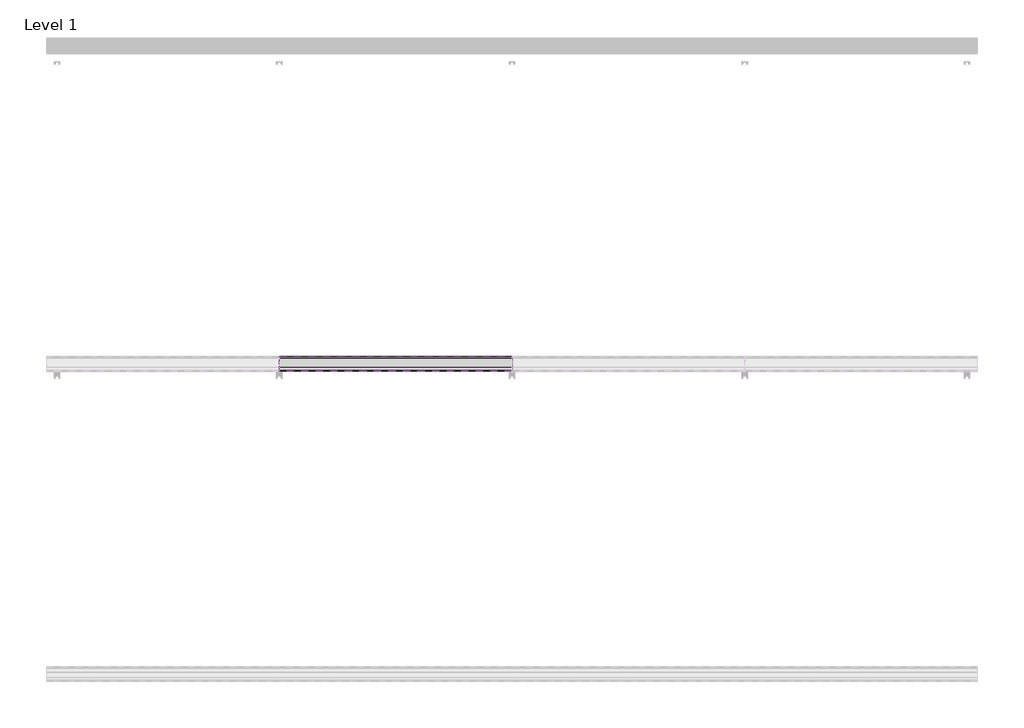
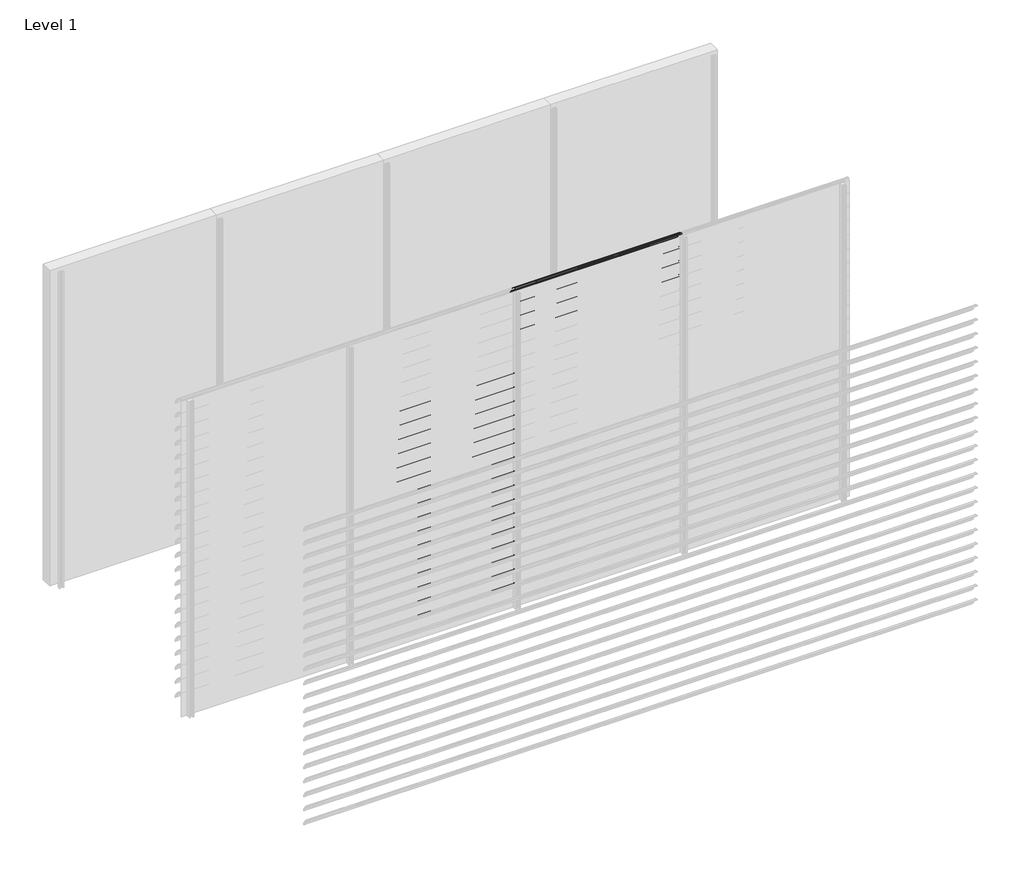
# One storey, part 44 of 57: 20 proxies.
"""IFC4 building model written with IfcOpenShell, lengths in millimetres."""

from ifc_helpers import new_model, si_unit, point, frame, frame_2d, origin, place, context, project, spatial, polyline, circle_curve, trimmed, segment, composite_curve, outline, extrude, element, save

model = new_model("IFC4")

# Units and contexts
model_context = context("Model", 3, world=origin())
ifc_project = project(units=[si_unit("LENGTHUNIT", "METRE", prefix="MILLI")], contexts=[model_context])

# Site, building, storey
site = spatial("IfcSite", under=ifc_project)
building = spatial("IfcBuilding", under=site)
storey = spatial("IfcBuildingStorey", under=building, Name="Level 1", Elevation=0.0)

# Proxies
placement = place(None, origin())
element("IfcBuildingElementProxy", 1, Name="Wall Sweeps", at=placement, inside=storey, context=model_context, shape_type="SweptSolid", body=[
    extrude(outline(composite_curve([segment(trimmed(circle_curve(frame_2d((-11993.7822526, 2218.4913792)), 4.2177474), [point((-11989.6985606, 2219.5462976))], [point((-11993.7822526, 2222.7091266))], False, "CARTESIAN"), True, "CONTINUOUS"), segment(trimmed(circle_curve(frame_2d((-12018.7150834, 2120.2536312)), 105.4456002), [point((-11993.7822526, 2222.7091266))], [point((-11971.7914298, 2214.6832099))], False, "CARTESIAN"), True, "CONTINUOUS"), segment(trimmed(circle_curve(frame_2d((-12061.7199745, 2066.0352476)), 173.7335887), [point((-11971.7914298, 2214.6832099))], [point((-11913.0720121, 2155.9637922))], False, "CARTESIAN"), True, "CONTINUOUS"), segment(trimmed(circle_curve(frame_2d((-12004.9297178, 2104.1860314)), 105.4456002), [point((-11913.0720121, 2155.9637922))], [point((-11903.6249616, 2133.4455765))], False, "CARTESIAN"), True, "CONTINUOUS"), segment(trimmed(circle_curve(frame_2d((-11907.809737, 2132.3307305)), 4.3307305), [point((-11903.6249616, 2133.4455765))], [point((-11909.0769196, 2128.189538))], False, "CARTESIAN"), True, "CONTINUOUS"), segment(polyline([(-11909.0769196, 2128.189538), (-11934.7401984, 2152.9722783)]), True, "CONTINUOUS"), segment(trimmed(circle_curve(frame_2d((-11931.3879574, 2155.2977626)), 4.079877), [point((-11934.7401984, 2152.9722783))], [point((-11930.7310597, 2159.3244091))], False, "CARTESIAN"), True, "CONTINUOUS"), segment(trimmed(circle_curve(frame_2d((-12014.6665585, 2137.2544323)), 86.7885467), [point((-11930.7310597, 2159.3244091))], [point((-11942.3028351, 2185.1683485))], True, "CARTESIAN"), True, "CONTINUOUS"), segment(polyline([(-11942.3028351, 2185.1683485), (-11940.7230099, 2187.9046861)]), True, "CONTINUOUS"), segment(trimmed(circle_curve(frame_2d((-12061.7199745, 2066.0352476)), 171.7335887), [point((-11940.7230099, 2187.9046861))], [point((-11972.7555872, 2212.9289618))], True, "CARTESIAN"), True, "CONTINUOUS"), segment(trimmed(circle_curve(frame_2d((-12018.7150834, 2120.2536312)), 103.4456002), [point((-11972.7555872, 2212.9289618))], [point((-11989.6985606, 2219.5462976))], True, "CARTESIAN"), True, "CONTINUOUS")], self_intersect=False)), frame((1500.0, 0.0, 0.0), z_axis=(1.0, 0.0, 0.0), x_axis=(0.0, 1.0, 0.0)), (0.0, 0.0, 1.0), 1500.0),
])
element("IfcBuildingElementProxy", 2, Name="Wall Sweeps", at=placement, inside=storey, context=model_context, shape_type="SweptSolid", body=[
    extrude(outline(composite_curve([segment(trimmed(circle_curve(frame_2d((-11993.7822526, 2085.4913792)), 4.2177474), [point((-11989.6985606, 2086.5462976))], [point((-11993.7822526, 2089.7091266))], False, "CARTESIAN"), True, "CONTINUOUS"), segment(trimmed(circle_curve(frame_2d((-12018.7150834, 1987.2536312)), 105.4456002), [point((-11993.7822526, 2089.7091266))], [point((-11971.7914298, 2081.6832099))], False, "CARTESIAN"), True, "CONTINUOUS"), segment(trimmed(circle_curve(frame_2d((-12061.7199745, 1933.0352476)), 173.7335887), [point((-11971.7914298, 2081.6832099))], [point((-11913.0720121, 2022.9637922))], False, "CARTESIAN"), True, "CONTINUOUS"), segment(trimmed(circle_curve(frame_2d((-12004.9297178, 1971.1860314)), 105.4456002), [point((-11913.0720121, 2022.9637922))], [point((-11903.6249616, 2000.4455765))], False, "CARTESIAN"), True, "CONTINUOUS"), segment(trimmed(circle_curve(frame_2d((-11907.809737, 1999.3307305)), 4.3307305), [point((-11903.6249616, 2000.4455765))], [point((-11909.0769196, 1995.189538))], False, "CARTESIAN"), True, "CONTINUOUS"), segment(polyline([(-11909.0769196, 1995.189538), (-11934.7401984, 2019.9722783)]), True, "CONTINUOUS"), segment(trimmed(circle_curve(frame_2d((-11931.3879574, 2022.2977626)), 4.079877), [point((-11934.7401984, 2019.9722783))], [point((-11930.7310597, 2026.3244091))], False, "CARTESIAN"), True, "CONTINUOUS"), segment(trimmed(circle_curve(frame_2d((-12014.6665585, 2004.2544323)), 86.7885467), [point((-11930.7310597, 2026.3244091))], [point((-11942.3028351, 2052.1683485))], True, "CARTESIAN"), True, "CONTINUOUS"), segment(polyline([(-11942.3028351, 2052.1683485), (-11940.7230099, 2054.9046861)]), True, "CONTINUOUS"), segment(trimmed(circle_curve(frame_2d((-12061.7199745, 1933.0352476)), 171.7335887), [point((-11940.7230099, 2054.9046861))], [point((-11972.7555872, 2079.9289618))], True, "CARTESIAN"), True, "CONTINUOUS"), segment(trimmed(circle_curve(frame_2d((-12018.7150834, 1987.2536312)), 103.4456002), [point((-11972.7555872, 2079.9289618))], [point((-11989.6985606, 2086.5462976))], True, "CARTESIAN"), True, "CONTINUOUS")], self_intersect=False)), frame((1500.0, 0.0, 0.0), z_axis=(1.0, 0.0, 0.0), x_axis=(0.0, 1.0, 0.0)), (0.0, 0.0, 1.0), 1500.0),
])
element("IfcBuildingElementProxy", 3, Name="Wall Sweeps", at=placement, inside=storey, context=model_context, shape_type="SweptSolid", body=[
    extrude(outline(composite_curve([segment(trimmed(circle_curve(frame_2d((-11993.7822526, 1952.4913792)), 4.2177474), [point((-11989.6985606, 1953.5462976))], [point((-11993.7822526, 1956.7091266))], False, "CARTESIAN"), True, "CONTINUOUS"), segment(trimmed(circle_curve(frame_2d((-12018.7150834, 1854.2536312)), 105.4456002), [point((-11993.7822526, 1956.7091266))], [point((-11971.7914298, 1948.6832099))], False, "CARTESIAN"), True, "CONTINUOUS"), segment(trimmed(circle_curve(frame_2d((-12061.7199745, 1800.0352476)), 173.7335887), [point((-11971.7914298, 1948.6832099))], [point((-11913.0720121, 1889.9637922))], False, "CARTESIAN"), True, "CONTINUOUS"), segment(trimmed(circle_curve(frame_2d((-12004.9297178, 1838.1860314)), 105.4456002), [point((-11913.0720121, 1889.9637922))], [point((-11903.6249616, 1867.4455765))], False, "CARTESIAN"), True, "CONTINUOUS"), segment(trimmed(circle_curve(frame_2d((-11907.809737, 1866.3307305)), 4.3307305), [point((-11903.6249616, 1867.4455765))], [point((-11909.0769196, 1862.189538))], False, "CARTESIAN"), True, "CONTINUOUS"), segment(polyline([(-11909.0769196, 1862.189538), (-11934.7401984, 1886.9722783)]), True, "CONTINUOUS"), segment(trimmed(circle_curve(frame_2d((-11931.3879574, 1889.2977626)), 4.079877), [point((-11934.7401984, 1886.9722783))], [point((-11930.7310597, 1893.3244091))], False, "CARTESIAN"), True, "CONTINUOUS"), segment(trimmed(circle_curve(frame_2d((-12014.6665585, 1871.2544323)), 86.7885467), [point((-11930.7310597, 1893.3244091))], [point((-11942.3028351, 1919.1683485))], True, "CARTESIAN"), True, "CONTINUOUS"), segment(polyline([(-11942.3028351, 1919.1683485), (-11940.7230099, 1921.9046861)]), True, "CONTINUOUS"), segment(trimmed(circle_curve(frame_2d((-12061.7199745, 1800.0352476)), 171.7335887), [point((-11940.7230099, 1921.9046861))], [point((-11972.7555872, 1946.9289618))], True, "CARTESIAN"), True, "CONTINUOUS"), segment(trimmed(circle_curve(frame_2d((-12018.7150834, 1854.2536312)), 103.4456002), [point((-11972.7555872, 1946.9289618))], [point((-11989.6985606, 1953.5462976))], True, "CARTESIAN"), True, "CONTINUOUS")], self_intersect=False)), frame((1500.0, 0.0, 0.0), z_axis=(1.0, 0.0, 0.0), x_axis=(0.0, 1.0, 0.0)), (0.0, 0.0, 1.0), 1500.0),
])
element("IfcBuildingElementProxy", 4, Name="Wall Sweeps", at=placement, inside=storey, context=model_context, shape_type="SweptSolid", body=[
    extrude(outline(composite_curve([segment(trimmed(circle_curve(frame_2d((-11993.7822526, 1819.4913792)), 4.2177474), [point((-11989.6985606, 1820.5462976))], [point((-11993.7822526, 1823.7091266))], False, "CARTESIAN"), True, "CONTINUOUS"), segment(trimmed(circle_curve(frame_2d((-12018.7150834, 1721.2536312)), 105.4456002), [point((-11993.7822526, 1823.7091266))], [point((-11971.7914298, 1815.6832099))], False, "CARTESIAN"), True, "CONTINUOUS"), segment(trimmed(circle_curve(frame_2d((-12061.7199745, 1667.0352476)), 173.7335887), [point((-11971.7914298, 1815.6832099))], [point((-11913.0720121, 1756.9637922))], False, "CARTESIAN"), True, "CONTINUOUS"), segment(trimmed(circle_curve(frame_2d((-12004.9297178, 1705.1860314)), 105.4456002), [point((-11913.0720121, 1756.9637922))], [point((-11903.6249616, 1734.4455765))], False, "CARTESIAN"), True, "CONTINUOUS"), segment(trimmed(circle_curve(frame_2d((-11907.809737, 1733.3307305)), 4.3307305), [point((-11903.6249616, 1734.4455765))], [point((-11909.0769196, 1729.189538))], False, "CARTESIAN"), True, "CONTINUOUS"), segment(polyline([(-11909.0769196, 1729.189538), (-11934.7401984, 1753.9722783)]), True, "CONTINUOUS"), segment(trimmed(circle_curve(frame_2d((-11931.3879574, 1756.2977626)), 4.079877), [point((-11934.7401984, 1753.9722783))], [point((-11930.7310597, 1760.3244091))], False, "CARTESIAN"), True, "CONTINUOUS"), segment(trimmed(circle_curve(frame_2d((-12014.6665585, 1738.2544323)), 86.7885467), [point((-11930.7310597, 1760.3244091))], [point((-11942.3028351, 1786.1683485))], True, "CARTESIAN"), True, "CONTINUOUS"), segment(polyline([(-11942.3028351, 1786.1683485), (-11940.7230099, 1788.9046861)]), True, "CONTINUOUS"), segment(trimmed(circle_curve(frame_2d((-12061.7199745, 1667.0352476)), 171.7335887), [point((-11940.7230099, 1788.9046861))], [point((-11972.7555872, 1813.9289618))], True, "CARTESIAN"), True, "CONTINUOUS"), segment(trimmed(circle_curve(frame_2d((-12018.7150834, 1721.2536312)), 103.4456002), [point((-11972.7555872, 1813.9289618))], [point((-11989.6985606, 1820.5462976))], True, "CARTESIAN"), True, "CONTINUOUS")], self_intersect=False)), frame((1500.0, 0.0, 0.0), z_axis=(1.0, 0.0, 0.0), x_axis=(0.0, 1.0, 0.0)), (0.0, 0.0, 1.0), 1500.0),
])
element("IfcBuildingElementProxy", 5, Name="Wall Sweeps", at=placement, inside=storey, context=model_context, shape_type="SweptSolid", body=[
    extrude(outline(composite_curve([segment(trimmed(circle_curve(frame_2d((-11993.7822526, 1686.4913792)), 4.2177474), [point((-11989.6985606, 1687.5462976))], [point((-11993.7822526, 1690.7091266))], False, "CARTESIAN"), True, "CONTINUOUS"), segment(trimmed(circle_curve(frame_2d((-12018.7150834, 1588.2536312)), 105.4456002), [point((-11993.7822526, 1690.7091266))], [point((-11971.7914298, 1682.6832099))], False, "CARTESIAN"), True, "CONTINUOUS"), segment(trimmed(circle_curve(frame_2d((-12061.7199745, 1534.0352476)), 173.7335887), [point((-11971.7914298, 1682.6832099))], [point((-11913.0720121, 1623.9637922))], False, "CARTESIAN"), True, "CONTINUOUS"), segment(trimmed(circle_curve(frame_2d((-12004.9297178, 1572.1860314)), 105.4456002), [point((-11913.0720121, 1623.9637922))], [point((-11903.6249616, 1601.4455765))], False, "CARTESIAN"), True, "CONTINUOUS"), segment(trimmed(circle_curve(frame_2d((-11907.809737, 1600.3307305)), 4.3307305), [point((-11903.6249616, 1601.4455765))], [point((-11909.0769196, 1596.189538))], False, "CARTESIAN"), True, "CONTINUOUS"), segment(polyline([(-11909.0769196, 1596.189538), (-11934.7401984, 1620.9722783)]), True, "CONTINUOUS"), segment(trimmed(circle_curve(frame_2d((-11931.3879574, 1623.2977626)), 4.079877), [point((-11934.7401984, 1620.9722783))], [point((-11930.7310597, 1627.3244091))], False, "CARTESIAN"), True, "CONTINUOUS"), segment(trimmed(circle_curve(frame_2d((-12014.6665585, 1605.2544323)), 86.7885467), [point((-11930.7310597, 1627.3244091))], [point((-11942.3028351, 1653.1683485))], True, "CARTESIAN"), True, "CONTINUOUS"), segment(polyline([(-11942.3028351, 1653.1683485), (-11940.7230099, 1655.9046861)]), True, "CONTINUOUS"), segment(trimmed(circle_curve(frame_2d((-12061.7199745, 1534.0352476)), 171.7335887), [point((-11940.7230099, 1655.9046861))], [point((-11972.7555872, 1680.9289618))], True, "CARTESIAN"), True, "CONTINUOUS"), segment(trimmed(circle_curve(frame_2d((-12018.7150834, 1588.2536312)), 103.4456002), [point((-11972.7555872, 1680.9289618))], [point((-11989.6985606, 1687.5462976))], True, "CARTESIAN"), True, "CONTINUOUS")], self_intersect=False)), frame((1500.0, 0.0, 0.0), z_axis=(1.0, 0.0, 0.0), x_axis=(0.0, 1.0, 0.0)), (0.0, 0.0, 1.0), 1500.0),
])
element("IfcBuildingElementProxy", 6, Name="Wall Sweeps", at=placement, inside=storey, context=model_context, shape_type="SweptSolid", body=[
    extrude(outline(composite_curve([segment(trimmed(circle_curve(frame_2d((-11993.7822526, 1553.4913792)), 4.2177474), [point((-11989.6985606, 1554.5462976))], [point((-11993.7822526, 1557.7091266))], False, "CARTESIAN"), True, "CONTINUOUS"), segment(trimmed(circle_curve(frame_2d((-12018.7150834, 1455.2536312)), 105.4456002), [point((-11993.7822526, 1557.7091266))], [point((-11971.7914298, 1549.6832099))], False, "CARTESIAN"), True, "CONTINUOUS"), segment(trimmed(circle_curve(frame_2d((-12061.7199745, 1401.0352476)), 173.7335887), [point((-11971.7914298, 1549.6832099))], [point((-11913.0720121, 1490.9637922))], False, "CARTESIAN"), True, "CONTINUOUS"), segment(trimmed(circle_curve(frame_2d((-12004.9297178, 1439.1860314)), 105.4456002), [point((-11913.0720121, 1490.9637922))], [point((-11903.6249616, 1468.4455765))], False, "CARTESIAN"), True, "CONTINUOUS"), segment(trimmed(circle_curve(frame_2d((-11907.809737, 1467.3307305)), 4.3307305), [point((-11903.6249616, 1468.4455765))], [point((-11909.0769196, 1463.189538))], False, "CARTESIAN"), True, "CONTINUOUS"), segment(polyline([(-11909.0769196, 1463.189538), (-11934.7401984, 1487.9722783)]), True, "CONTINUOUS"), segment(trimmed(circle_curve(frame_2d((-11931.3879574, 1490.2977626)), 4.079877), [point((-11934.7401984, 1487.9722783))], [point((-11930.7310597, 1494.3244091))], False, "CARTESIAN"), True, "CONTINUOUS"), segment(trimmed(circle_curve(frame_2d((-12014.6665585, 1472.2544323)), 86.7885467), [point((-11930.7310597, 1494.3244091))], [point((-11942.3028351, 1520.1683485))], True, "CARTESIAN"), True, "CONTINUOUS"), segment(polyline([(-11942.3028351, 1520.1683485), (-11940.7230099, 1522.9046861)]), True, "CONTINUOUS"), segment(trimmed(circle_curve(frame_2d((-12061.7199745, 1401.0352476)), 171.7335887), [point((-11940.7230099, 1522.9046861))], [point((-11972.7555872, 1547.9289618))], True, "CARTESIAN"), True, "CONTINUOUS"), segment(trimmed(circle_curve(frame_2d((-12018.7150834, 1455.2536312)), 103.4456002), [point((-11972.7555872, 1547.9289618))], [point((-11989.6985606, 1554.5462976))], True, "CARTESIAN"), True, "CONTINUOUS")], self_intersect=False)), frame((1500.0, 0.0, 0.0), z_axis=(1.0, 0.0, 0.0), x_axis=(0.0, 1.0, 0.0)), (0.0, 0.0, 1.0), 1500.0),
])
element("IfcBuildingElementProxy", 7, Name="Wall Sweeps", at=placement, inside=storey, context=model_context, shape_type="SweptSolid", body=[
    extrude(outline(composite_curve([segment(trimmed(circle_curve(frame_2d((-11993.7822526, 1420.4913792)), 4.2177474), [point((-11989.6985606, 1421.5462976))], [point((-11993.7822526, 1424.7091266))], False, "CARTESIAN"), True, "CONTINUOUS"), segment(trimmed(circle_curve(frame_2d((-12018.7150834, 1322.2536312)), 105.4456002), [point((-11993.7822526, 1424.7091266))], [point((-11971.7914298, 1416.6832099))], False, "CARTESIAN"), True, "CONTINUOUS"), segment(trimmed(circle_curve(frame_2d((-12061.7199745, 1268.0352476)), 173.7335887), [point((-11971.7914298, 1416.6832099))], [point((-11913.0720121, 1357.9637922))], False, "CARTESIAN"), True, "CONTINUOUS"), segment(trimmed(circle_curve(frame_2d((-12004.9297178, 1306.1860314)), 105.4456002), [point((-11913.0720121, 1357.9637922))], [point((-11903.6249616, 1335.4455765))], False, "CARTESIAN"), True, "CONTINUOUS"), segment(trimmed(circle_curve(frame_2d((-11907.809737, 1334.3307305)), 4.3307305), [point((-11903.6249616, 1335.4455765))], [point((-11909.0769196, 1330.189538))], False, "CARTESIAN"), True, "CONTINUOUS"), segment(polyline([(-11909.0769196, 1330.189538), (-11934.7401984, 1354.9722783)]), True, "CONTINUOUS"), segment(trimmed(circle_curve(frame_2d((-11931.3879574, 1357.2977626)), 4.079877), [point((-11934.7401984, 1354.9722783))], [point((-11930.7310597, 1361.3244091))], False, "CARTESIAN"), True, "CONTINUOUS"), segment(trimmed(circle_curve(frame_2d((-12014.6665585, 1339.2544323)), 86.7885467), [point((-11930.7310597, 1361.3244091))], [point((-11942.3028351, 1387.1683485))], True, "CARTESIAN"), True, "CONTINUOUS"), segment(polyline([(-11942.3028351, 1387.1683485), (-11940.7230099, 1389.9046861)]), True, "CONTINUOUS"), segment(trimmed(circle_curve(frame_2d((-12061.7199745, 1268.0352476)), 171.7335887), [point((-11940.7230099, 1389.9046861))], [point((-11972.7555872, 1414.9289618))], True, "CARTESIAN"), True, "CONTINUOUS"), segment(trimmed(circle_curve(frame_2d((-12018.7150834, 1322.2536312)), 103.4456002), [point((-11972.7555872, 1414.9289618))], [point((-11989.6985606, 1421.5462976))], True, "CARTESIAN"), True, "CONTINUOUS")], self_intersect=False)), frame((1500.0, 0.0, 0.0), z_axis=(1.0, 0.0, 0.0), x_axis=(0.0, 1.0, 0.0)), (0.0, 0.0, 1.0), 1500.0),
])
element("IfcBuildingElementProxy", 8, Name="Wall Sweeps", at=placement, inside=storey, context=model_context, shape_type="SweptSolid", body=[
    extrude(outline(composite_curve([segment(trimmed(circle_curve(frame_2d((-11993.7822526, 1287.4913792)), 4.2177474), [point((-11989.6985606, 1288.5462976))], [point((-11993.7822526, 1291.7091266))], False, "CARTESIAN"), True, "CONTINUOUS"), segment(trimmed(circle_curve(frame_2d((-12018.7150834, 1189.2536312)), 105.4456002), [point((-11993.7822526, 1291.7091266))], [point((-11971.7914298, 1283.6832099))], False, "CARTESIAN"), True, "CONTINUOUS"), segment(trimmed(circle_curve(frame_2d((-12061.7199745, 1135.0352476)), 173.7335887), [point((-11971.7914298, 1283.6832099))], [point((-11913.0720121, 1224.9637922))], False, "CARTESIAN"), True, "CONTINUOUS"), segment(trimmed(circle_curve(frame_2d((-12004.9297178, 1173.1860314)), 105.4456002), [point((-11913.0720121, 1224.9637922))], [point((-11903.6249616, 1202.4455765))], False, "CARTESIAN"), True, "CONTINUOUS"), segment(trimmed(circle_curve(frame_2d((-11907.809737, 1201.3307305)), 4.3307305), [point((-11903.6249616, 1202.4455765))], [point((-11909.0769196, 1197.189538))], False, "CARTESIAN"), True, "CONTINUOUS"), segment(polyline([(-11909.0769196, 1197.189538), (-11934.7401984, 1221.9722783)]), True, "CONTINUOUS"), segment(trimmed(circle_curve(frame_2d((-11931.3879574, 1224.2977626)), 4.079877), [point((-11934.7401984, 1221.9722783))], [point((-11930.7310597, 1228.3244091))], False, "CARTESIAN"), True, "CONTINUOUS"), segment(trimmed(circle_curve(frame_2d((-12014.6665585, 1206.2544323)), 86.7885467), [point((-11930.7310597, 1228.3244091))], [point((-11942.3028351, 1254.1683485))], True, "CARTESIAN"), True, "CONTINUOUS"), segment(polyline([(-11942.3028351, 1254.1683485), (-11940.7230099, 1256.9046861)]), True, "CONTINUOUS"), segment(trimmed(circle_curve(frame_2d((-12061.7199745, 1135.0352476)), 171.7335887), [point((-11940.7230099, 1256.9046861))], [point((-11972.7555872, 1281.9289618))], True, "CARTESIAN"), True, "CONTINUOUS"), segment(trimmed(circle_curve(frame_2d((-12018.7150834, 1189.2536312)), 103.4456002), [point((-11972.7555872, 1281.9289618))], [point((-11989.6985606, 1288.5462976))], True, "CARTESIAN"), True, "CONTINUOUS")], self_intersect=False)), frame((1500.0, 0.0, 0.0), z_axis=(1.0, 0.0, 0.0), x_axis=(0.0, 1.0, 0.0)), (0.0, 0.0, 1.0), 1500.0),
])
element("IfcBuildingElementProxy", 9, Name="Wall Sweeps", at=placement, inside=storey, context=model_context, shape_type="SweptSolid", body=[
    extrude(outline(composite_curve([segment(trimmed(circle_curve(frame_2d((-11993.7822526, 1154.4913792)), 4.2177474), [point((-11989.6985606, 1155.5462976))], [point((-11993.7822526, 1158.7091266))], False, "CARTESIAN"), True, "CONTINUOUS"), segment(trimmed(circle_curve(frame_2d((-12018.7150834, 1056.2536312)), 105.4456002), [point((-11993.7822526, 1158.7091266))], [point((-11971.7914298, 1150.6832099))], False, "CARTESIAN"), True, "CONTINUOUS"), segment(trimmed(circle_curve(frame_2d((-12061.7199745, 1002.0352476)), 173.7335887), [point((-11971.7914298, 1150.6832099))], [point((-11913.0720121, 1091.9637922))], False, "CARTESIAN"), True, "CONTINUOUS"), segment(trimmed(circle_curve(frame_2d((-12004.9297178, 1040.1860314)), 105.4456002), [point((-11913.0720121, 1091.9637922))], [point((-11903.6249616, 1069.4455765))], False, "CARTESIAN"), True, "CONTINUOUS"), segment(trimmed(circle_curve(frame_2d((-11907.809737, 1068.3307305)), 4.3307305), [point((-11903.6249616, 1069.4455765))], [point((-11909.0769196, 1064.189538))], False, "CARTESIAN"), True, "CONTINUOUS"), segment(polyline([(-11909.0769196, 1064.189538), (-11934.7401984, 1088.9722783)]), True, "CONTINUOUS"), segment(trimmed(circle_curve(frame_2d((-11931.3879574, 1091.2977626)), 4.079877), [point((-11934.7401984, 1088.9722783))], [point((-11930.7310597, 1095.3244091))], False, "CARTESIAN"), True, "CONTINUOUS"), segment(trimmed(circle_curve(frame_2d((-12014.6665585, 1073.2544323)), 86.7885467), [point((-11930.7310597, 1095.3244091))], [point((-11942.3028351, 1121.1683485))], True, "CARTESIAN"), True, "CONTINUOUS"), segment(polyline([(-11942.3028351, 1121.1683485), (-11940.7230099, 1123.9046861)]), True, "CONTINUOUS"), segment(trimmed(circle_curve(frame_2d((-12061.7199745, 1002.0352476)), 171.7335887), [point((-11940.7230099, 1123.9046861))], [point((-11972.7555872, 1148.9289618))], True, "CARTESIAN"), True, "CONTINUOUS"), segment(trimmed(circle_curve(frame_2d((-12018.7150834, 1056.2536312)), 103.4456002), [point((-11972.7555872, 1148.9289618))], [point((-11989.6985606, 1155.5462976))], True, "CARTESIAN"), True, "CONTINUOUS")], self_intersect=False)), frame((1500.0, 0.0, 0.0), z_axis=(1.0, 0.0, 0.0), x_axis=(0.0, 1.0, 0.0)), (0.0, 0.0, 1.0), 1500.0),
])
element("IfcBuildingElementProxy", 10, Name="Wall Sweeps", at=placement, inside=storey, context=model_context, shape_type="SweptSolid", body=[
    extrude(outline(composite_curve([segment(trimmed(circle_curve(frame_2d((-11993.7822526, 1021.4913792)), 4.2177474), [point((-11989.6985606, 1022.5462976))], [point((-11993.7822526, 1025.7091266))], False, "CARTESIAN"), True, "CONTINUOUS"), segment(trimmed(circle_curve(frame_2d((-12018.7150834, 923.2536312)), 105.4456002), [point((-11993.7822526, 1025.7091266))], [point((-11971.7914298, 1017.6832099))], False, "CARTESIAN"), True, "CONTINUOUS"), segment(trimmed(circle_curve(frame_2d((-12061.7199745, 869.0352476)), 173.7335887), [point((-11971.7914298, 1017.6832099))], [point((-11913.0720121, 958.9637922))], False, "CARTESIAN"), True, "CONTINUOUS"), segment(trimmed(circle_curve(frame_2d((-12004.9297178, 907.1860314)), 105.4456002), [point((-11913.0720121, 958.9637922))], [point((-11903.6249616, 936.4455765))], False, "CARTESIAN"), True, "CONTINUOUS"), segment(trimmed(circle_curve(frame_2d((-11907.809737, 935.3307305)), 4.3307305), [point((-11903.6249616, 936.4455765))], [point((-11909.0769196, 931.189538))], False, "CARTESIAN"), True, "CONTINUOUS"), segment(polyline([(-11909.0769196, 931.189538), (-11934.7401984, 955.9722783)]), True, "CONTINUOUS"), segment(trimmed(circle_curve(frame_2d((-11931.3879574, 958.2977626)), 4.079877), [point((-11934.7401984, 955.9722783))], [point((-11930.7310597, 962.3244091))], False, "CARTESIAN"), True, "CONTINUOUS"), segment(trimmed(circle_curve(frame_2d((-12014.6665585, 940.2544323)), 86.7885467), [point((-11930.7310597, 962.3244091))], [point((-11942.3028351, 988.1683485))], True, "CARTESIAN"), True, "CONTINUOUS"), segment(polyline([(-11942.3028351, 988.1683485), (-11940.7230099, 990.9046861)]), True, "CONTINUOUS"), segment(trimmed(circle_curve(frame_2d((-12061.7199745, 869.0352476)), 171.7335887), [point((-11940.7230099, 990.9046861))], [point((-11972.7555872, 1015.9289618))], True, "CARTESIAN"), True, "CONTINUOUS"), segment(trimmed(circle_curve(frame_2d((-12018.7150834, 923.2536312)), 103.4456002), [point((-11972.7555872, 1015.9289618))], [point((-11989.6985606, 1022.5462976))], True, "CARTESIAN"), True, "CONTINUOUS")], self_intersect=False)), frame((1500.0, 0.0, 0.0), z_axis=(1.0, 0.0, 0.0), x_axis=(0.0, 1.0, 0.0)), (0.0, 0.0, 1.0), 1500.0),
])
element("IfcBuildingElementProxy", 11, Name="Wall Sweeps", at=placement, inside=storey, context=model_context, shape_type="SweptSolid", body=[
    extrude(outline(composite_curve([segment(trimmed(circle_curve(frame_2d((-11993.7822526, 888.4913792)), 4.2177474), [point((-11989.6985606, 889.5462976))], [point((-11993.7822526, 892.7091266))], False, "CARTESIAN"), True, "CONTINUOUS"), segment(trimmed(circle_curve(frame_2d((-12018.7150834, 790.2536312)), 105.4456002), [point((-11993.7822526, 892.7091266))], [point((-11971.7914298, 884.6832099))], False, "CARTESIAN"), True, "CONTINUOUS"), segment(trimmed(circle_curve(frame_2d((-12061.7199745, 736.0352476)), 173.7335887), [point((-11971.7914298, 884.6832099))], [point((-11913.0720121, 825.9637922))], False, "CARTESIAN"), True, "CONTINUOUS"), segment(trimmed(circle_curve(frame_2d((-12004.9297178, 774.1860314)), 105.4456002), [point((-11913.0720121, 825.9637922))], [point((-11903.6249616, 803.4455765))], False, "CARTESIAN"), True, "CONTINUOUS"), segment(trimmed(circle_curve(frame_2d((-11907.809737, 802.3307305)), 4.3307305), [point((-11903.6249616, 803.4455765))], [point((-11909.0769196, 798.189538))], False, "CARTESIAN"), True, "CONTINUOUS"), segment(polyline([(-11909.0769196, 798.189538), (-11934.7401984, 822.9722783)]), True, "CONTINUOUS"), segment(trimmed(circle_curve(frame_2d((-11931.3879574, 825.2977626)), 4.079877), [point((-11934.7401984, 822.9722783))], [point((-11930.7310597, 829.3244091))], False, "CARTESIAN"), True, "CONTINUOUS"), segment(trimmed(circle_curve(frame_2d((-12014.6665585, 807.2544323)), 86.7885467), [point((-11930.7310597, 829.3244091))], [point((-11942.3028351, 855.1683485))], True, "CARTESIAN"), True, "CONTINUOUS"), segment(polyline([(-11942.3028351, 855.1683485), (-11940.7230099, 857.9046861)]), True, "CONTINUOUS"), segment(trimmed(circle_curve(frame_2d((-12061.7199745, 736.0352476)), 171.7335887), [point((-11940.7230099, 857.9046861))], [point((-11972.7555872, 882.9289618))], True, "CARTESIAN"), True, "CONTINUOUS"), segment(trimmed(circle_curve(frame_2d((-12018.7150834, 790.2536312)), 103.4456002), [point((-11972.7555872, 882.9289618))], [point((-11989.6985606, 889.5462976))], True, "CARTESIAN"), True, "CONTINUOUS")], self_intersect=False)), frame((1500.0, 0.0, 0.0), z_axis=(1.0, 0.0, 0.0), x_axis=(0.0, 1.0, 0.0)), (0.0, 0.0, 1.0), 1500.0),
])
element("IfcBuildingElementProxy", 12, Name="Wall Sweeps", at=placement, inside=storey, context=model_context, shape_type="SweptSolid", body=[
    extrude(outline(composite_curve([segment(trimmed(circle_curve(frame_2d((-11993.7822526, 755.4913792)), 4.2177474), [point((-11989.6985606, 756.5462976))], [point((-11993.7822526, 759.7091266))], False, "CARTESIAN"), True, "CONTINUOUS"), segment(trimmed(circle_curve(frame_2d((-12018.7150834, 657.2536312)), 105.4456002), [point((-11993.7822526, 759.7091266))], [point((-11971.7914298, 751.6832099))], False, "CARTESIAN"), True, "CONTINUOUS"), segment(trimmed(circle_curve(frame_2d((-12061.7199745, 603.0352476)), 173.7335887), [point((-11971.7914298, 751.6832099))], [point((-11913.0720121, 692.9637922))], False, "CARTESIAN"), True, "CONTINUOUS"), segment(trimmed(circle_curve(frame_2d((-12004.9297178, 641.1860314)), 105.4456002), [point((-11913.0720121, 692.9637922))], [point((-11903.6249616, 670.4455765))], False, "CARTESIAN"), True, "CONTINUOUS"), segment(trimmed(circle_curve(frame_2d((-11907.809737, 669.3307305)), 4.3307305), [point((-11903.6249616, 670.4455765))], [point((-11909.0769196, 665.189538))], False, "CARTESIAN"), True, "CONTINUOUS"), segment(polyline([(-11909.0769196, 665.189538), (-11934.7401984, 689.9722783)]), True, "CONTINUOUS"), segment(trimmed(circle_curve(frame_2d((-11931.3879574, 692.2977626)), 4.079877), [point((-11934.7401984, 689.9722783))], [point((-11930.7310597, 696.3244091))], False, "CARTESIAN"), True, "CONTINUOUS"), segment(trimmed(circle_curve(frame_2d((-12014.6665585, 674.2544323)), 86.7885467), [point((-11930.7310597, 696.3244091))], [point((-11942.3028351, 722.1683485))], True, "CARTESIAN"), True, "CONTINUOUS"), segment(polyline([(-11942.3028351, 722.1683485), (-11940.7230099, 724.9046861)]), True, "CONTINUOUS"), segment(trimmed(circle_curve(frame_2d((-12061.7199745, 603.0352476)), 171.7335887), [point((-11940.7230099, 724.9046861))], [point((-11972.7555872, 749.9289618))], True, "CARTESIAN"), True, "CONTINUOUS"), segment(trimmed(circle_curve(frame_2d((-12018.7150834, 657.2536312)), 103.4456002), [point((-11972.7555872, 749.9289618))], [point((-11989.6985606, 756.5462976))], True, "CARTESIAN"), True, "CONTINUOUS")], self_intersect=False)), frame((1500.0, 0.0, 0.0), z_axis=(1.0, 0.0, 0.0), x_axis=(0.0, 1.0, 0.0)), (0.0, 0.0, 1.0), 1500.0),
])
element("IfcBuildingElementProxy", 13, Name="Wall Sweeps", at=placement, inside=storey, context=model_context, shape_type="SweptSolid", body=[
    extrude(outline(composite_curve([segment(trimmed(circle_curve(frame_2d((-11993.7822526, 622.4913792)), 4.2177474), [point((-11989.6985606, 623.5462976))], [point((-11993.7822526, 626.7091266))], False, "CARTESIAN"), True, "CONTINUOUS"), segment(trimmed(circle_curve(frame_2d((-12018.7150834, 524.2536312)), 105.4456002), [point((-11993.7822526, 626.7091266))], [point((-11971.7914298, 618.6832099))], False, "CARTESIAN"), True, "CONTINUOUS"), segment(trimmed(circle_curve(frame_2d((-12061.7199745, 470.0352476)), 173.7335887), [point((-11971.7914298, 618.6832099))], [point((-11913.0720121, 559.9637922))], False, "CARTESIAN"), True, "CONTINUOUS"), segment(trimmed(circle_curve(frame_2d((-12004.9297178, 508.1860314)), 105.4456002), [point((-11913.0720121, 559.9637922))], [point((-11903.6249616, 537.4455765))], False, "CARTESIAN"), True, "CONTINUOUS"), segment(trimmed(circle_curve(frame_2d((-11907.809737, 536.3307305)), 4.3307305), [point((-11903.6249616, 537.4455765))], [point((-11909.0769196, 532.189538))], False, "CARTESIAN"), True, "CONTINUOUS"), segment(polyline([(-11909.0769196, 532.189538), (-11934.7401984, 556.9722783)]), True, "CONTINUOUS"), segment(trimmed(circle_curve(frame_2d((-11931.3879574, 559.2977626)), 4.079877), [point((-11934.7401984, 556.9722783))], [point((-11930.7310597, 563.3244091))], False, "CARTESIAN"), True, "CONTINUOUS"), segment(trimmed(circle_curve(frame_2d((-12014.6665585, 541.2544323)), 86.7885467), [point((-11930.7310597, 563.3244091))], [point((-11942.3028351, 589.1683485))], True, "CARTESIAN"), True, "CONTINUOUS"), segment(polyline([(-11942.3028351, 589.1683485), (-11940.7230099, 591.9046861)]), True, "CONTINUOUS"), segment(trimmed(circle_curve(frame_2d((-12061.7199745, 470.0352476)), 171.7335887), [point((-11940.7230099, 591.9046861))], [point((-11972.7555872, 616.9289618))], True, "CARTESIAN"), True, "CONTINUOUS"), segment(trimmed(circle_curve(frame_2d((-12018.7150834, 524.2536312)), 103.4456002), [point((-11972.7555872, 616.9289618))], [point((-11989.6985606, 623.5462976))], True, "CARTESIAN"), True, "CONTINUOUS")], self_intersect=False)), frame((1500.0, 0.0, 0.0), z_axis=(1.0, 0.0, 0.0), x_axis=(0.0, 1.0, 0.0)), (0.0, 0.0, 1.0), 1500.0),
])
element("IfcBuildingElementProxy", 14, Name="Wall Sweeps", at=placement, inside=storey, context=model_context, shape_type="SweptSolid", body=[
    extrude(outline(composite_curve([segment(trimmed(circle_curve(frame_2d((-11993.7822526, 489.4913792)), 4.2177474), [point((-11989.6985606, 490.5462976))], [point((-11993.7822526, 493.7091266))], False, "CARTESIAN"), True, "CONTINUOUS"), segment(trimmed(circle_curve(frame_2d((-12018.7150834, 391.2536312)), 105.4456002), [point((-11993.7822526, 493.7091266))], [point((-11971.7914298, 485.6832099))], False, "CARTESIAN"), True, "CONTINUOUS"), segment(trimmed(circle_curve(frame_2d((-12061.7199745, 337.0352476)), 173.7335887), [point((-11971.7914298, 485.6832099))], [point((-11913.0720121, 426.9637922))], False, "CARTESIAN"), True, "CONTINUOUS"), segment(trimmed(circle_curve(frame_2d((-12004.9297178, 375.1860314)), 105.4456002), [point((-11913.0720121, 426.9637922))], [point((-11903.6249616, 404.4455765))], False, "CARTESIAN"), True, "CONTINUOUS"), segment(trimmed(circle_curve(frame_2d((-11907.809737, 403.3307305)), 4.3307305), [point((-11903.6249616, 404.4455765))], [point((-11909.0769196, 399.189538))], False, "CARTESIAN"), True, "CONTINUOUS"), segment(polyline([(-11909.0769196, 399.189538), (-11934.7401984, 423.9722783)]), True, "CONTINUOUS"), segment(trimmed(circle_curve(frame_2d((-11931.3879574, 426.2977626)), 4.079877), [point((-11934.7401984, 423.9722783))], [point((-11930.7310597, 430.3244091))], False, "CARTESIAN"), True, "CONTINUOUS"), segment(trimmed(circle_curve(frame_2d((-12014.6665585, 408.2544323)), 86.7885467), [point((-11930.7310597, 430.3244091))], [point((-11942.3028351, 456.1683485))], True, "CARTESIAN"), True, "CONTINUOUS"), segment(polyline([(-11942.3028351, 456.1683485), (-11940.7230099, 458.9046861)]), True, "CONTINUOUS"), segment(trimmed(circle_curve(frame_2d((-12061.7199745, 337.0352476)), 171.7335887), [point((-11940.7230099, 458.9046861))], [point((-11972.7555872, 483.9289618))], True, "CARTESIAN"), True, "CONTINUOUS"), segment(trimmed(circle_curve(frame_2d((-12018.7150834, 391.2536312)), 103.4456002), [point((-11972.7555872, 483.9289618))], [point((-11989.6985606, 490.5462976))], True, "CARTESIAN"), True, "CONTINUOUS")], self_intersect=False)), frame((1500.0, 0.0, 0.0), z_axis=(1.0, 0.0, 0.0), x_axis=(0.0, 1.0, 0.0)), (0.0, 0.0, 1.0), 1500.0),
])
element("IfcBuildingElementProxy", 15, Name="Wall Sweeps", at=placement, inside=storey, context=model_context, shape_type="SweptSolid", body=[
    extrude(outline(composite_curve([segment(trimmed(circle_curve(frame_2d((-11993.7822526, 356.4913792)), 4.2177474), [point((-11989.6985606, 357.5462976))], [point((-11993.7822526, 360.7091266))], False, "CARTESIAN"), True, "CONTINUOUS"), segment(trimmed(circle_curve(frame_2d((-12018.7150834, 258.2536312)), 105.4456002), [point((-11993.7822526, 360.7091266))], [point((-11971.7914298, 352.6832099))], False, "CARTESIAN"), True, "CONTINUOUS"), segment(trimmed(circle_curve(frame_2d((-12061.7199745, 204.0352476)), 173.7335887), [point((-11971.7914298, 352.6832099))], [point((-11913.0720121, 293.9637922))], False, "CARTESIAN"), True, "CONTINUOUS"), segment(trimmed(circle_curve(frame_2d((-12004.9297178, 242.1860314)), 105.4456002), [point((-11913.0720121, 293.9637922))], [point((-11903.6249616, 271.4455765))], False, "CARTESIAN"), True, "CONTINUOUS"), segment(trimmed(circle_curve(frame_2d((-11907.809737, 270.3307305)), 4.3307305), [point((-11903.6249616, 271.4455765))], [point((-11909.0769196, 266.189538))], False, "CARTESIAN"), True, "CONTINUOUS"), segment(polyline([(-11909.0769196, 266.189538), (-11934.7401984, 290.9722783)]), True, "CONTINUOUS"), segment(trimmed(circle_curve(frame_2d((-11931.3879574, 293.2977626)), 4.079877), [point((-11934.7401984, 290.9722783))], [point((-11930.7310597, 297.3244091))], False, "CARTESIAN"), True, "CONTINUOUS"), segment(trimmed(circle_curve(frame_2d((-12014.6665585, 275.2544323)), 86.7885467), [point((-11930.7310597, 297.3244091))], [point((-11942.3028351, 323.1683485))], True, "CARTESIAN"), True, "CONTINUOUS"), segment(polyline([(-11942.3028351, 323.1683485), (-11940.7230099, 325.9046861)]), True, "CONTINUOUS"), segment(trimmed(circle_curve(frame_2d((-12061.7199745, 204.0352476)), 171.7335887), [point((-11940.7230099, 325.9046861))], [point((-11972.7555872, 350.9289618))], True, "CARTESIAN"), True, "CONTINUOUS"), segment(trimmed(circle_curve(frame_2d((-12018.7150834, 258.2536312)), 103.4456002), [point((-11972.7555872, 350.9289618))], [point((-11989.6985606, 357.5462976))], True, "CARTESIAN"), True, "CONTINUOUS")], self_intersect=False)), frame((1500.0, 0.0, 0.0), z_axis=(1.0, 0.0, 0.0), x_axis=(0.0, 1.0, 0.0)), (0.0, 0.0, 1.0), 1500.0),
])
element("IfcBuildingElementProxy", 16, Name="Wall Sweeps", at=placement, inside=storey, context=model_context, shape_type="SweptSolid", body=[
    extrude(outline(composite_curve([segment(trimmed(circle_curve(frame_2d((-11993.7822526, 223.4913792)), 4.2177474), [point((-11989.6985606, 224.5462976))], [point((-11993.7822526, 227.7091266))], False, "CARTESIAN"), True, "CONTINUOUS"), segment(trimmed(circle_curve(frame_2d((-12018.7150834, 125.2536312)), 105.4456002), [point((-11993.7822526, 227.7091266))], [point((-11971.7914298, 219.6832099))], False, "CARTESIAN"), True, "CONTINUOUS"), segment(trimmed(circle_curve(frame_2d((-12061.7199745, 71.0352476)), 173.7335887), [point((-11971.7914298, 219.6832099))], [point((-11913.0720121, 160.9637922))], False, "CARTESIAN"), True, "CONTINUOUS"), segment(trimmed(circle_curve(frame_2d((-12004.9297178, 109.1860314)), 105.4456002), [point((-11913.0720121, 160.9637922))], [point((-11903.6249616, 138.4455765))], False, "CARTESIAN"), True, "CONTINUOUS"), segment(trimmed(circle_curve(frame_2d((-11907.809737, 137.3307305)), 4.3307305), [point((-11903.6249616, 138.4455765))], [point((-11909.0769196, 133.189538))], False, "CARTESIAN"), True, "CONTINUOUS"), segment(polyline([(-11909.0769196, 133.189538), (-11934.7401984, 157.9722783)]), True, "CONTINUOUS"), segment(trimmed(circle_curve(frame_2d((-11931.3879574, 160.2977626)), 4.079877), [point((-11934.7401984, 157.9722783))], [point((-11930.7310597, 164.3244091))], False, "CARTESIAN"), True, "CONTINUOUS"), segment(trimmed(circle_curve(frame_2d((-12014.6665585, 142.2544323)), 86.7885467), [point((-11930.7310597, 164.3244091))], [point((-11942.3028351, 190.1683485))], True, "CARTESIAN"), True, "CONTINUOUS"), segment(polyline([(-11942.3028351, 190.1683485), (-11940.7230099, 192.9046861)]), True, "CONTINUOUS"), segment(trimmed(circle_curve(frame_2d((-12061.7199745, 71.0352476)), 171.7335887), [point((-11940.7230099, 192.9046861))], [point((-11972.7555872, 217.9289618))], True, "CARTESIAN"), True, "CONTINUOUS"), segment(trimmed(circle_curve(frame_2d((-12018.7150834, 125.2536312)), 103.4456002), [point((-11972.7555872, 217.9289618))], [point((-11989.6985606, 224.5462976))], True, "CARTESIAN"), True, "CONTINUOUS")], self_intersect=False)), frame((1500.0, 0.0, 0.0), z_axis=(1.0, 0.0, 0.0), x_axis=(0.0, 1.0, 0.0)), (0.0, 0.0, 1.0), 1500.0),
])
element("IfcBuildingElementProxy", 17, Name="Wall Sweeps", at=placement, inside=storey, context=model_context, shape_type="SweptSolid", body=[
    extrude(outline(composite_curve([segment(trimmed(circle_curve(frame_2d((-11993.7822526, 3016.4913792)), 4.2177474), [point((-11989.6985606, 3017.5462976))], [point((-11993.7822526, 3020.7091266))], False, "CARTESIAN"), True, "CONTINUOUS"), segment(trimmed(circle_curve(frame_2d((-12018.7150834, 2918.2536312)), 105.4456002), [point((-11993.7822526, 3020.7091266))], [point((-11971.7914298, 3012.6832099))], False, "CARTESIAN"), True, "CONTINUOUS"), segment(trimmed(circle_curve(frame_2d((-12061.7199745, 2864.0352476)), 173.7335887), [point((-11971.7914298, 3012.6832099))], [point((-11913.0720121, 2953.9637922))], False, "CARTESIAN"), True, "CONTINUOUS"), segment(trimmed(circle_curve(frame_2d((-12004.9297178, 2902.1860314)), 105.4456002), [point((-11913.0720121, 2953.9637922))], [point((-11903.6249616, 2931.4455765))], False, "CARTESIAN"), True, "CONTINUOUS"), segment(trimmed(circle_curve(frame_2d((-11907.809737, 2930.3307305)), 4.3307305), [point((-11903.6249616, 2931.4455765))], [point((-11909.0769196, 2926.189538))], False, "CARTESIAN"), True, "CONTINUOUS"), segment(polyline([(-11909.0769196, 2926.189538), (-11934.7401984, 2950.9722783)]), True, "CONTINUOUS"), segment(trimmed(circle_curve(frame_2d((-11931.3879574, 2953.2977626)), 4.079877), [point((-11934.7401984, 2950.9722783))], [point((-11930.7310597, 2957.3244091))], False, "CARTESIAN"), True, "CONTINUOUS"), segment(trimmed(circle_curve(frame_2d((-12014.6665585, 2935.2544323)), 86.7885467), [point((-11930.7310597, 2957.3244091))], [point((-11942.3028351, 2983.1683485))], True, "CARTESIAN"), True, "CONTINUOUS"), segment(polyline([(-11942.3028351, 2983.1683485), (-11940.7230099, 2985.9046861)]), True, "CONTINUOUS"), segment(trimmed(circle_curve(frame_2d((-12061.7199745, 2864.0352476)), 171.7335887), [point((-11940.7230099, 2985.9046861))], [point((-11972.7555872, 3010.9289618))], True, "CARTESIAN"), True, "CONTINUOUS"), segment(trimmed(circle_curve(frame_2d((-12018.7150834, 2918.2536312)), 103.4456002), [point((-11972.7555872, 3010.9289618))], [point((-11989.6985606, 3017.5462976))], True, "CARTESIAN"), True, "CONTINUOUS")], self_intersect=False)), frame((3000.0, 0.0, 0.0), z_axis=(1.0, 0.0, 0.0), x_axis=(0.0, 1.0, 0.0)), (0.0, 0.0, 1.0), 1500.0),
])
element("IfcBuildingElementProxy", 18, Name="Wall Sweeps", at=placement, inside=storey, context=model_context, shape_type="SweptSolid", body=[
    extrude(outline(composite_curve([segment(trimmed(circle_curve(frame_2d((-11993.7822526, 2883.4913792)), 4.2177474), [point((-11989.6985606, 2884.5462976))], [point((-11993.7822526, 2887.7091266))], False, "CARTESIAN"), True, "CONTINUOUS"), segment(trimmed(circle_curve(frame_2d((-12018.7150834, 2785.2536312)), 105.4456002), [point((-11993.7822526, 2887.7091266))], [point((-11971.7914298, 2879.6832099))], False, "CARTESIAN"), True, "CONTINUOUS"), segment(trimmed(circle_curve(frame_2d((-12061.7199745, 2731.0352476)), 173.7335887), [point((-11971.7914298, 2879.6832099))], [point((-11913.0720121, 2820.9637922))], False, "CARTESIAN"), True, "CONTINUOUS"), segment(trimmed(circle_curve(frame_2d((-12004.9297178, 2769.1860314)), 105.4456002), [point((-11913.0720121, 2820.9637922))], [point((-11903.6249616, 2798.4455765))], False, "CARTESIAN"), True, "CONTINUOUS"), segment(trimmed(circle_curve(frame_2d((-11907.809737, 2797.3307305)), 4.3307305), [point((-11903.6249616, 2798.4455765))], [point((-11909.0769196, 2793.189538))], False, "CARTESIAN"), True, "CONTINUOUS"), segment(polyline([(-11909.0769196, 2793.189538), (-11934.7401984, 2817.9722783)]), True, "CONTINUOUS"), segment(trimmed(circle_curve(frame_2d((-11931.3879574, 2820.2977626)), 4.079877), [point((-11934.7401984, 2817.9722783))], [point((-11930.7310597, 2824.3244091))], False, "CARTESIAN"), True, "CONTINUOUS"), segment(trimmed(circle_curve(frame_2d((-12014.6665585, 2802.2544323)), 86.7885467), [point((-11930.7310597, 2824.3244091))], [point((-11942.3028351, 2850.1683485))], True, "CARTESIAN"), True, "CONTINUOUS"), segment(polyline([(-11942.3028351, 2850.1683485), (-11940.7230099, 2852.9046861)]), True, "CONTINUOUS"), segment(trimmed(circle_curve(frame_2d((-12061.7199745, 2731.0352476)), 171.7335887), [point((-11940.7230099, 2852.9046861))], [point((-11972.7555872, 2877.9289618))], True, "CARTESIAN"), True, "CONTINUOUS"), segment(trimmed(circle_curve(frame_2d((-12018.7150834, 2785.2536312)), 103.4456002), [point((-11972.7555872, 2877.9289618))], [point((-11989.6985606, 2884.5462976))], True, "CARTESIAN"), True, "CONTINUOUS")], self_intersect=False)), frame((3000.0, 0.0, 0.0), z_axis=(1.0, 0.0, 0.0), x_axis=(0.0, 1.0, 0.0)), (0.0, 0.0, 1.0), 1500.0),
])
element("IfcBuildingElementProxy", 19, Name="Wall Sweeps", at=placement, inside=storey, context=model_context, shape_type="SweptSolid", body=[
    extrude(outline(composite_curve([segment(trimmed(circle_curve(frame_2d((-11993.7822526, 2750.4913792)), 4.2177474), [point((-11989.6985606, 2751.5462976))], [point((-11993.7822526, 2754.7091266))], False, "CARTESIAN"), True, "CONTINUOUS"), segment(trimmed(circle_curve(frame_2d((-12018.7150834, 2652.2536312)), 105.4456002), [point((-11993.7822526, 2754.7091266))], [point((-11971.7914298, 2746.6832099))], False, "CARTESIAN"), True, "CONTINUOUS"), segment(trimmed(circle_curve(frame_2d((-12061.7199745, 2598.0352476)), 173.7335887), [point((-11971.7914298, 2746.6832099))], [point((-11913.0720121, 2687.9637922))], False, "CARTESIAN"), True, "CONTINUOUS"), segment(trimmed(circle_curve(frame_2d((-12004.9297178, 2636.1860314)), 105.4456002), [point((-11913.0720121, 2687.9637922))], [point((-11903.6249616, 2665.4455765))], False, "CARTESIAN"), True, "CONTINUOUS"), segment(trimmed(circle_curve(frame_2d((-11907.809737, 2664.3307305)), 4.3307305), [point((-11903.6249616, 2665.4455765))], [point((-11909.0769196, 2660.189538))], False, "CARTESIAN"), True, "CONTINUOUS"), segment(polyline([(-11909.0769196, 2660.189538), (-11934.7401984, 2684.9722783)]), True, "CONTINUOUS"), segment(trimmed(circle_curve(frame_2d((-11931.3879574, 2687.2977626)), 4.079877), [point((-11934.7401984, 2684.9722783))], [point((-11930.7310597, 2691.3244091))], False, "CARTESIAN"), True, "CONTINUOUS"), segment(trimmed(circle_curve(frame_2d((-12014.6665585, 2669.2544323)), 86.7885467), [point((-11930.7310597, 2691.3244091))], [point((-11942.3028351, 2717.1683485))], True, "CARTESIAN"), True, "CONTINUOUS"), segment(polyline([(-11942.3028351, 2717.1683485), (-11940.7230099, 2719.9046861)]), True, "CONTINUOUS"), segment(trimmed(circle_curve(frame_2d((-12061.7199745, 2598.0352476)), 171.7335887), [point((-11940.7230099, 2719.9046861))], [point((-11972.7555872, 2744.9289618))], True, "CARTESIAN"), True, "CONTINUOUS"), segment(trimmed(circle_curve(frame_2d((-12018.7150834, 2652.2536312)), 103.4456002), [point((-11972.7555872, 2744.9289618))], [point((-11989.6985606, 2751.5462976))], True, "CARTESIAN"), True, "CONTINUOUS")], self_intersect=False)), frame((3000.0, 0.0, 0.0), z_axis=(1.0, 0.0, 0.0), x_axis=(0.0, 1.0, 0.0)), (0.0, 0.0, 1.0), 1500.0),
])
element("IfcBuildingElementProxy", 20, Name="Wall Sweeps", at=placement, inside=storey, context=model_context, shape_type="SweptSolid", body=[
    extrude(outline(composite_curve([segment(trimmed(circle_curve(frame_2d((-11993.7822526, 2617.4913792)), 4.2177474), [point((-11989.6985606, 2618.5462976))], [point((-11993.7822526, 2621.7091266))], False, "CARTESIAN"), True, "CONTINUOUS"), segment(trimmed(circle_curve(frame_2d((-12018.7150834, 2519.2536312)), 105.4456002), [point((-11993.7822526, 2621.7091266))], [point((-11971.7914298, 2613.6832099))], False, "CARTESIAN"), True, "CONTINUOUS"), segment(trimmed(circle_curve(frame_2d((-12061.7199745, 2465.0352476)), 173.7335887), [point((-11971.7914298, 2613.6832099))], [point((-11913.0720121, 2554.9637922))], False, "CARTESIAN"), True, "CONTINUOUS"), segment(trimmed(circle_curve(frame_2d((-12004.9297178, 2503.1860314)), 105.4456002), [point((-11913.0720121, 2554.9637922))], [point((-11903.6249616, 2532.4455765))], False, "CARTESIAN"), True, "CONTINUOUS"), segment(trimmed(circle_curve(frame_2d((-11907.809737, 2531.3307305)), 4.3307305), [point((-11903.6249616, 2532.4455765))], [point((-11909.0769196, 2527.189538))], False, "CARTESIAN"), True, "CONTINUOUS"), segment(polyline([(-11909.0769196, 2527.189538), (-11934.7401984, 2551.9722783)]), True, "CONTINUOUS"), segment(trimmed(circle_curve(frame_2d((-11931.3879574, 2554.2977626)), 4.079877), [point((-11934.7401984, 2551.9722783))], [point((-11930.7310597, 2558.3244091))], False, "CARTESIAN"), True, "CONTINUOUS"), segment(trimmed(circle_curve(frame_2d((-12014.6665585, 2536.2544323)), 86.7885467), [point((-11930.7310597, 2558.3244091))], [point((-11942.3028351, 2584.1683485))], True, "CARTESIAN"), True, "CONTINUOUS"), segment(polyline([(-11942.3028351, 2584.1683485), (-11940.7230099, 2586.9046861)]), True, "CONTINUOUS"), segment(trimmed(circle_curve(frame_2d((-12061.7199745, 2465.0352476)), 171.7335887), [point((-11940.7230099, 2586.9046861))], [point((-11972.7555872, 2611.9289618))], True, "CARTESIAN"), True, "CONTINUOUS"), segment(trimmed(circle_curve(frame_2d((-12018.7150834, 2519.2536312)), 103.4456002), [point((-11972.7555872, 2611.9289618))], [point((-11989.6985606, 2618.5462976))], True, "CARTESIAN"), True, "CONTINUOUS")], self_intersect=False)), frame((3000.0, 0.0, 0.0), z_axis=(1.0, 0.0, 0.0), x_axis=(0.0, 1.0, 0.0)), (0.0, 0.0, 1.0), 1500.0),
])

save(model, "model.ifc")
